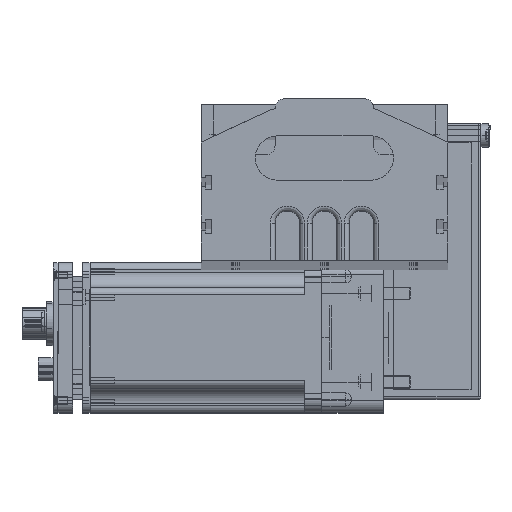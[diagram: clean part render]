
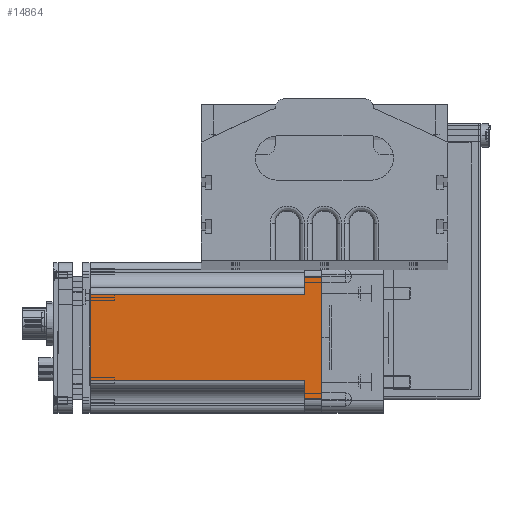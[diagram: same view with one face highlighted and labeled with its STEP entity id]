
A CAD part, top view. The second image highlights one B-rep face of the part: STEP entity #14864.
In plain terms, the highlighted planar face has unit normal (0, 0, 1).
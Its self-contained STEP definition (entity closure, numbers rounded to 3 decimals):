
#9687 = VERTEX_POINT ( 'NONE', #45297 ) ;
#9804 = VERTEX_POINT ( 'NONE', #45542 ) ;
#9985 = EDGE_CURVE ( 'NONE', #9687, #9804, #46002, .T. ) ;
#11379 = EDGE_CURVE ( 'NONE', #11417, #9687, #48322, .T. ) ;
#11417 = VERTEX_POINT ( 'NONE', #48406 ) ;
#14685 = EDGE_CURVE ( 'NONE', #9804, #15256, #20920, .T. ) ;
#14701 = EDGE_LOOP ( 'NONE', ( #14791, #14711, #14778, #14747, #14740, #14871, #14792, #14937 ) ) ;
#14711 = ORIENTED_EDGE ( 'NONE', *, *, #9985, .F. ) ;
#14740 = ORIENTED_EDGE ( 'NONE', *, *, #14940, .F. ) ;
#14743 = VERTEX_POINT ( 'NONE', #21054 ) ;
#14746 = EDGE_CURVE ( 'NONE', #11417, #14743, #21096, .T. ) ;
#14747 = ORIENTED_EDGE ( 'NONE', *, *, #14746, .T. ) ;
#14753 = VERTEX_POINT ( 'NONE', #21075 ) ;
#14778 = ORIENTED_EDGE ( 'NONE', *, *, #11379, .F. ) ;
#14791 = ORIENTED_EDGE ( 'NONE', *, *, #14685, .F. ) ;
#14792 = ORIENTED_EDGE ( 'NONE', *, *, #14951, .F. ) ;
#14864 = ADVANCED_FACE ( 'NONE', ( #21377 ), #21373, .F. ) ;
#14871 = ORIENTED_EDGE ( 'NONE', *, *, #15013, .F. ) ;
#14885 = VERTEX_POINT ( 'NONE', #21344 ) ;
#14937 = ORIENTED_EDGE ( 'NONE', *, *, #14947, .F. ) ;
#14940 = EDGE_CURVE ( 'NONE', #15067, #14743, #21504, .T. ) ;
#14947 = EDGE_CURVE ( 'NONE', #15256, #14885, #21492, .T. ) ;
#14951 = EDGE_CURVE ( 'NONE', #14885, #14753, #21476, .T. ) ;
#15013 = EDGE_CURVE ( 'NONE', #14753, #15067, #21692, .T. ) ;
#15067 = VERTEX_POINT ( 'NONE', #21735 ) ;
#15256 = VERTEX_POINT ( 'NONE', #22101 ) ;
#20917 = DIRECTION ( 'NONE',  ( 0., 1., 0. ) ) ;
#20918 = VECTOR ( 'NONE', #20917, 1000. ) ;
#20919 = CARTESIAN_POINT ( 'NONE',  ( -17.5, 7., 30.5 ) ) ;
#20920 = LINE ( 'NONE', #20919, #20918 ) ;
#21054 = CARTESIAN_POINT ( 'NONE',  ( 24.5, 0., 30.5 ) ) ;
#21075 = CARTESIAN_POINT ( 'NONE',  ( 17.5, 7., 30.5 ) ) ;
#21093 = DIRECTION ( 'NONE',  ( 1., 0., 0. ) ) ;
#21094 = VECTOR ( 'NONE', #21093, 1000. ) ;
#21095 = CARTESIAN_POINT ( 'NONE',  ( -24.5, 0., 30.5 ) ) ;
#21096 = LINE ( 'NONE', #21095, #21094 ) ;
#21344 = CARTESIAN_POINT ( 'NONE',  ( 17.5, 94., 30.5 ) ) ;
#21365 = DIRECTION ( 'NONE',  ( -1., 0., 0. ) ) ;
#21366 = DIRECTION ( 'NONE',  ( 0., 0., -1. ) ) ;
#21370 = CARTESIAN_POINT ( 'NONE',  ( -24.5, 7., 30.5 ) ) ;
#21373 = PLANE ( 'NONE',  #21375 ) ;
#21375 = AXIS2_PLACEMENT_3D ( 'NONE', #21370, #21366, #21365 ) ;
#21377 = FACE_OUTER_BOUND ( 'NONE', #14701, .T. ) ;
#21476 = LINE ( 'NONE', #21540, #21534 ) ;
#21485 = DIRECTION ( 'NONE',  ( 0., -1., 0. ) ) ;
#21487 = VECTOR ( 'NONE', #21485, 1000. ) ;
#21488 = CARTESIAN_POINT ( 'NONE',  ( 24.5, 7., 30.5 ) ) ;
#21492 = LINE ( 'NONE', #21543, #21542 ) ;
#21504 = LINE ( 'NONE', #21488, #21487 ) ;
#21533 = DIRECTION ( 'NONE',  ( 0., -1., 0. ) ) ;
#21534 = VECTOR ( 'NONE', #21533, 1000. ) ;
#21540 = CARTESIAN_POINT ( 'NONE',  ( 17.5, 95.35, 30.5 ) ) ;
#21541 = DIRECTION ( 'NONE',  ( 1., 0., 0. ) ) ;
#21542 = VECTOR ( 'NONE', #21541, 1000. ) ;
#21543 = CARTESIAN_POINT ( 'NONE',  ( 26.5, 94., 30.5 ) ) ;
#21689 = DIRECTION ( 'NONE',  ( 1., 0., 0. ) ) ;
#21690 = VECTOR ( 'NONE', #21689, 1000. ) ;
#21691 = CARTESIAN_POINT ( 'NONE',  ( -24.5, 7., 30.5 ) ) ;
#21692 = LINE ( 'NONE', #21691, #21690 ) ;
#21735 = CARTESIAN_POINT ( 'NONE',  ( 24.5, 7., 30.5 ) ) ;
#22101 = CARTESIAN_POINT ( 'NONE',  ( -17.5, 94., 30.5 ) ) ;
#45297 = CARTESIAN_POINT ( 'NONE',  ( -24.5, 7., 30.5 ) ) ;
#45542 = CARTESIAN_POINT ( 'NONE',  ( -17.5, 7., 30.5 ) ) ;
#45999 = DIRECTION ( 'NONE',  ( 1., 0., 0. ) ) ;
#46000 = VECTOR ( 'NONE', #45999, 1000. ) ;
#46001 = CARTESIAN_POINT ( 'NONE',  ( -24.5, 7., 30.5 ) ) ;
#46002 = LINE ( 'NONE', #46001, #46000 ) ;
#48304 = DIRECTION ( 'NONE',  ( 0., 1., 0. ) ) ;
#48305 = VECTOR ( 'NONE', #48304, 1000. ) ;
#48321 = CARTESIAN_POINT ( 'NONE',  ( -24.5, 7., 30.5 ) ) ;
#48322 = LINE ( 'NONE', #48321, #48305 ) ;
#48406 = CARTESIAN_POINT ( 'NONE',  ( -24.5, 0., 30.5 ) ) ;
